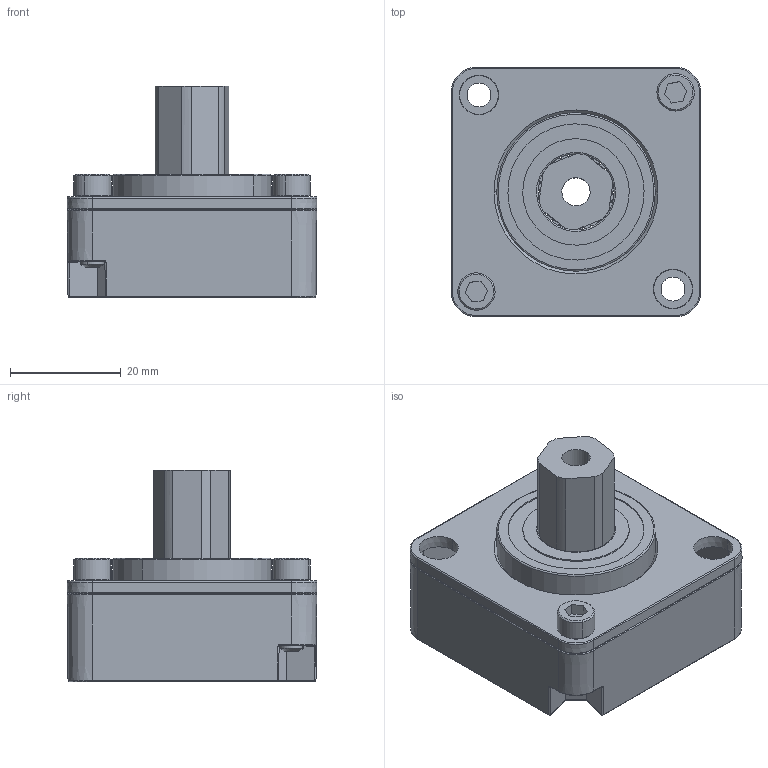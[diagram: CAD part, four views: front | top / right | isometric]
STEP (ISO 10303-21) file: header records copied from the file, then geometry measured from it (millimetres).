
FILE_DESCRIPTION (( 'STEP AP214' ), '1' );
FILE_NAME ('217-6011-SpeedIncreaser-20171201.STEP', '2017-12-01T16:23:24', ( '' ), ( '' ), 'SwSTEP 2.0', 'SolidWorks 2017', '' );
FILE_SCHEMA (( 'AUTOMOTIVE_DESIGN' ));
Length unit declared in the file: millimetre
Products named in the file (11): 217-6011-150 Rev1; 217-5823-009 Rev1; 217-6011-004 Rev1_9714K61; 217-4006-001 Rev6; 217-6011-001 Rev13; 217-6011-SpeedIncreaser-20171201; 217-6011-002 Rev5; 217-6011-005 Rev3; 217-4649-002 Rev1_SSA0832-0500ZC; 217-2741-001 Rev4; 217-6011-003 Rev5
Assembly tree (12 placements, depth 3):
  217-6011-SpeedIncreaser-20171201
    217-6011-150 Rev1
      217-6011-001 Rev13
      217-5823-009 Rev1  x2
    217-6011-002 Rev5
    217-6011-003 Rev5
    217-2741-001 Rev4
    217-4006-001 Rev6
    217-6011-004 Rev1_9714K61
    217-6011-005 Rev3
    217-4649-002 Rev1_SSA0832-0500ZC  x2
Bounding box: 45.04 x 45.04 x 38.1 mm (x, y, z)
Volume: 23165.1 mm3; surface area: 25859.8 mm2
Topology: 11 solids, 11 shells, 1878 faces, 4310 edges, 2480 vertices
Faces by surface type: cylinder 504, bspline 424, plane 348, torus 229, sphere 217, cone 156
Entity records: 72028 total; most frequent: CARTESIAN_POINT 33036, ORIENTED_EDGE 8440, DIRECTION 7836, EDGE_CURVE 4220, AXIS2_PLACEMENT_3D 3300, VERTEX_POINT 2426, EDGE_LOOP 1900, CIRCLE 1864
